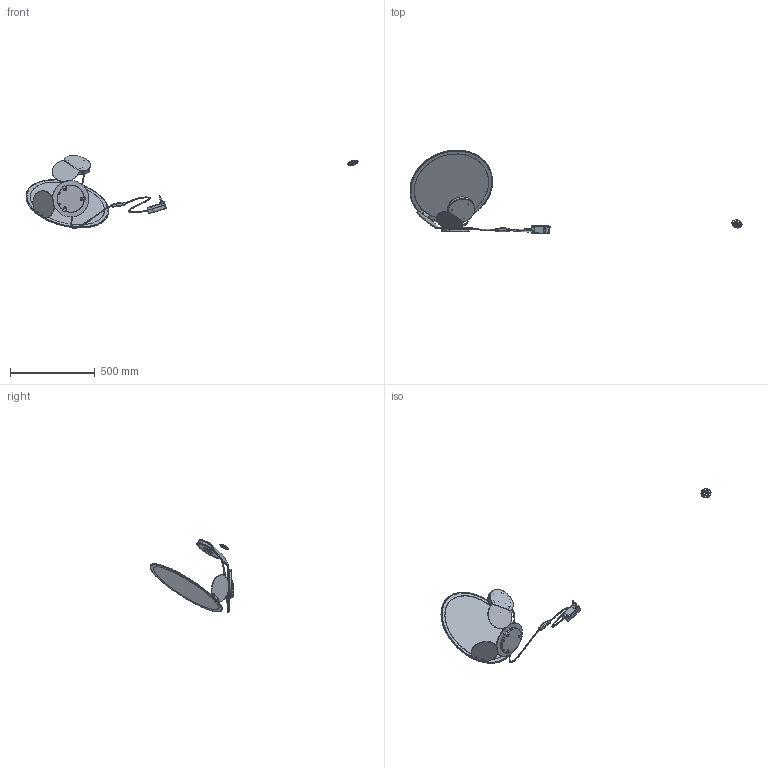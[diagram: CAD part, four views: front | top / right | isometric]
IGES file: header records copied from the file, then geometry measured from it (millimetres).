
Start section: SolidWorks IGES file using analytic representation for surfaces
Global section: file name: D:\OneDrive\Projects\AXO067 CUT II\DRAW\3D\STEP-IGES\CUT-TABLE_3.IGS; native system: SolidWorks 2019; preprocessor: SolidWorks 2019; author: tecnico8; date: 190725.162811; units: millimetre
Bounding box: 1962.86 x 496.34 x 431.21 mm (x, y, z)
Surface area: 1029862.9 mm2 (no closed solid volume)
Topology: 0 solids, 0 shells, 867 faces, 13378 edges, 13354 vertices
Faces by surface type: revolution 492, bspline 375
